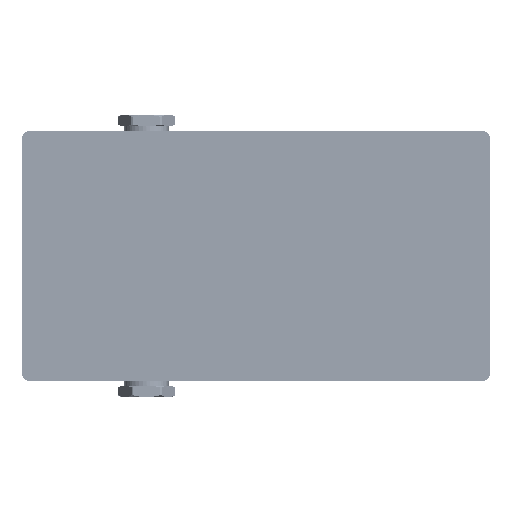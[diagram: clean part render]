
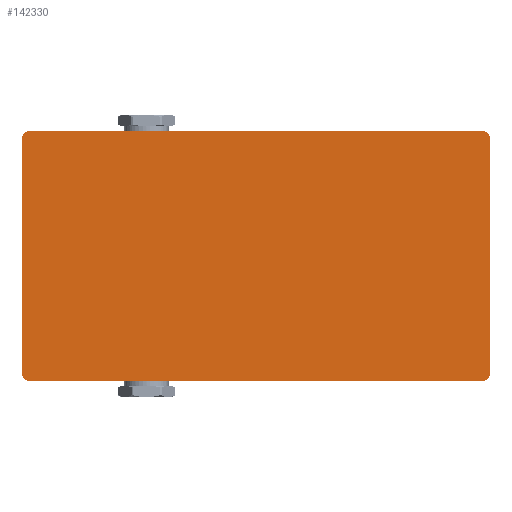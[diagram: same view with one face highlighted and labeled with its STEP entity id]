
A CAD part, front view. The second image highlights one B-rep face of the part: STEP entity #142330.
In plain terms, the highlighted planar face has unit normal (0, -1, 0).
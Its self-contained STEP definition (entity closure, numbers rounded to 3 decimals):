
#25278=CARTESIAN_POINT('',(-135.,0.,-70.));
#25279=DIRECTION('',(0.,1.,0.));
#25280=DIRECTION('',(0.,0.,-1.));
#25281=AXIS2_PLACEMENT_3D('',#25278,#25279,#25280);
#25283=CARTESIAN_POINT('',(-135.,0.,70.));
#25284=DIRECTION('',(0.,1.,0.));
#25285=DIRECTION('',(-1.,0.,0.));
#25286=AXIS2_PLACEMENT_3D('',#25283,#25284,#25285);
#25288=CARTESIAN_POINT('',(135.,0.,70.));
#25289=DIRECTION('',(0.,1.,0.));
#25290=DIRECTION('',(0.,0.,1.));
#25291=AXIS2_PLACEMENT_3D('',#25288,#25289,#25290);
#25293=CARTESIAN_POINT('',(135.,0.,-70.));
#25294=DIRECTION('',(0.,1.,0.));
#25295=DIRECTION('',(1.,0.,0.));
#25296=AXIS2_PLACEMENT_3D('',#25293,#25294,#25295);
#25298=DIRECTION('',(0.,0.,-1.));
#25299=VECTOR('',#25298,140.);
#25300=CARTESIAN_POINT('',(-140.,0.,70.));
#25301=LINE('',#25300,#25299);
#25310=DIRECTION('',(-1.,0.,0.));
#25311=VECTOR('',#25310,270.);
#25312=CARTESIAN_POINT('',(135.,0.,75.));
#25313=LINE('',#25312,#25311);
#25322=DIRECTION('',(0.,0.,1.));
#25323=VECTOR('',#25322,140.);
#25324=CARTESIAN_POINT('',(140.,0.,-70.));
#25325=LINE('',#25324,#25323);
#25334=DIRECTION('',(1.,0.,0.));
#25335=VECTOR('',#25334,270.);
#25336=CARTESIAN_POINT('',(-135.,0.,-75.));
#25337=LINE('',#25336,#25335);
#94514=CARTESIAN_POINT('',(-135.,0.,-75.));
#94515=CARTESIAN_POINT('',(-140.,0.,-70.));
#94516=VERTEX_POINT('',#94514);
#94517=VERTEX_POINT('',#94515);
#94518=CARTESIAN_POINT('',(-140.,0.,70.));
#94519=VERTEX_POINT('',#94518);
#94520=CARTESIAN_POINT('',(-135.,0.,75.));
#94521=VERTEX_POINT('',#94520);
#94522=CARTESIAN_POINT('',(135.,0.,75.));
#94523=VERTEX_POINT('',#94522);
#94524=CARTESIAN_POINT('',(140.,0.,70.));
#94525=VERTEX_POINT('',#94524);
#94526=CARTESIAN_POINT('',(140.,0.,-70.));
#94527=VERTEX_POINT('',#94526);
#94528=CARTESIAN_POINT('',(135.,0.,-75.));
#94529=VERTEX_POINT('',#94528);
#142308=CARTESIAN_POINT('',(65.5,0.,0.));
#142309=DIRECTION('',(0.,1.,0.));
#142310=DIRECTION('',(1.,0.,0.));
#142311=AXIS2_PLACEMENT_3D('',#142308,#142309,#142310);
#142312=PLANE('',#142311);
#142313=ORIENTED_EDGE('',*,*,#142298,.T.);
#142315=ORIENTED_EDGE('',*,*,#142314,.F.);
#142317=ORIENTED_EDGE('',*,*,#142316,.T.);
#142319=ORIENTED_EDGE('',*,*,#142318,.F.);
#142321=ORIENTED_EDGE('',*,*,#142320,.T.);
#142323=ORIENTED_EDGE('',*,*,#142322,.F.);
#142325=ORIENTED_EDGE('',*,*,#142324,.T.);
#142327=ORIENTED_EDGE('',*,*,#142326,.F.);
#142328=EDGE_LOOP('',(#142313,#142315,#142317,#142319,#142321,#142323,#142325,
#142327));
#142329=FACE_OUTER_BOUND('',#142328,.F.);
#142330=ADVANCED_FACE('',(#142329),#142312,.F.);
#25282=CIRCLE('',#25281,5.);
#25287=CIRCLE('',#25286,5.);
#25292=CIRCLE('',#25291,5.);
#25297=CIRCLE('',#25296,5.);
#142298=EDGE_CURVE('',#94516,#94517,#25282,.T.);
#142314=EDGE_CURVE('',#94519,#94517,#25301,.T.);
#142316=EDGE_CURVE('',#94519,#94521,#25287,.T.);
#142318=EDGE_CURVE('',#94523,#94521,#25313,.T.);
#142320=EDGE_CURVE('',#94523,#94525,#25292,.T.);
#142322=EDGE_CURVE('',#94527,#94525,#25325,.T.);
#142324=EDGE_CURVE('',#94527,#94529,#25297,.T.);
#142326=EDGE_CURVE('',#94516,#94529,#25337,.T.);
